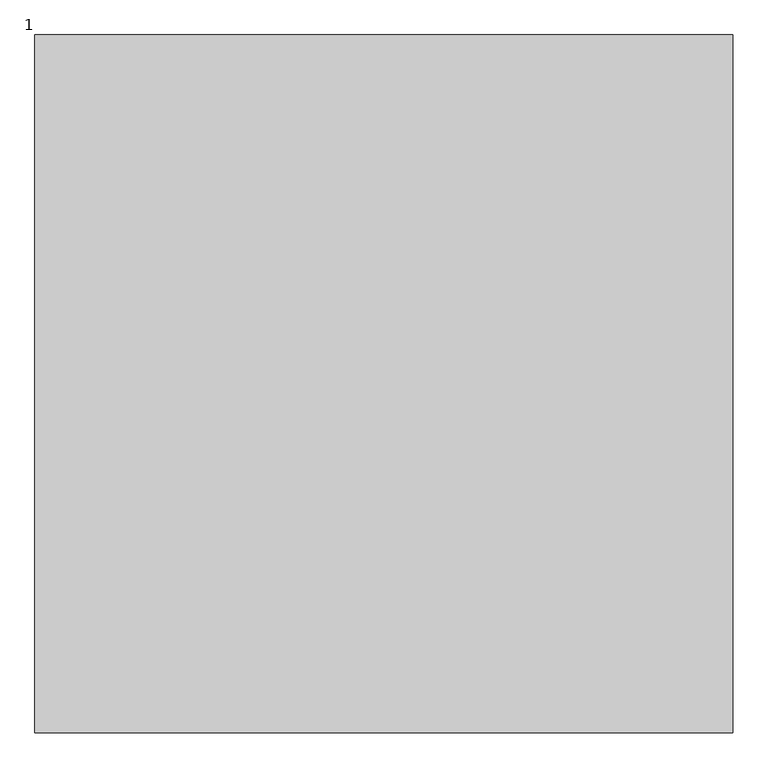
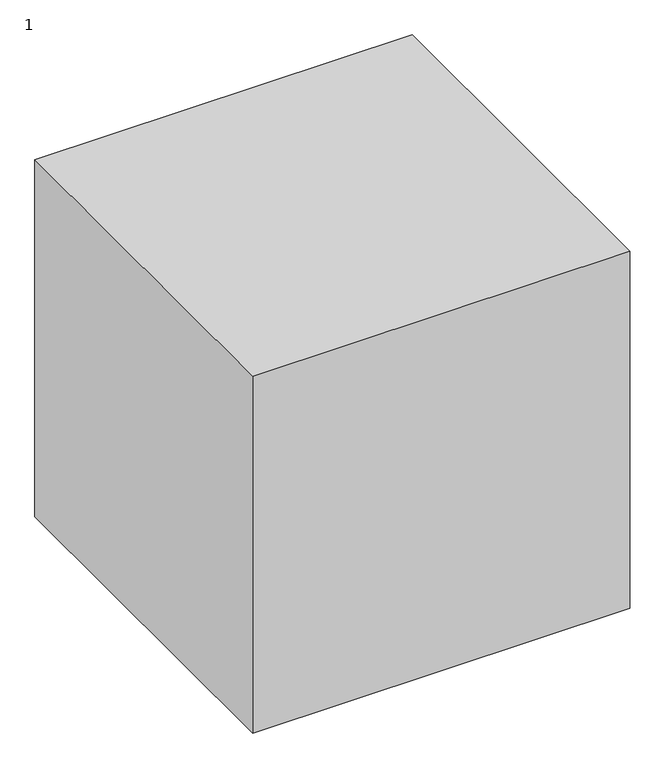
"""IFC4 building model written with IfcOpenShell, lengths in millimetres: proxy geometry, 1222211 : 1."""

import ifcopenshell
import ifcopenshell.guid

model = None  # the IFC model being written
_history = None  # IfcOwnerHistory: only IFC2X3 demands one
_inside = {}  # id of a spatial element -> (the spatial element, [elements in it])
_under = {}  # id of a project, library or spatial element -> (it, [spatial elements below it])
_declared = {}  # id of a project -> (the project, [libraries it declares])
_typed = {}  # id of a type object -> (the type object, [elements of that type])
_made_of = {}  # id of a material, layer set ... -> (it, [elements and type objects made of it])


def new_model(schema):
    """Start an empty IFC model of exactly this schema.

    Asked for "IFC4X3", IfcOpenShell would pick the latest addendum, in which some entities
    have other attributes; the version numbers below select the first issue.
    IFC2X3 requires an IfcOwnerHistory on every rooted entity: one is made here for all.
    """
    global model, _history
    if schema == "IFC4X3":
        model = ifcopenshell.file(schema_version=(4, 3, 0, 0))
    else:
        model = ifcopenshell.file(schema=schema)
    _inside.clear()
    _under.clear()
    _declared.clear()
    _typed.clear()
    _made_of.clear()
    _history = None
    if model.schema == "IFC2X3":
        org = make("IfcOrganization", Name="unknown")
        user = make(
            "IfcPersonAndOrganization",
            ThePerson=make("IfcPerson", FamilyName="unknown"),
            TheOrganization=org,
        )
        app = make(
            "IfcApplication",
            ApplicationDeveloper=org,
            Version="unknown",
            ApplicationFullName="unknown",
            ApplicationIdentifier="unknown",
        )
        _history = make(
            "IfcOwnerHistory",
            OwningUser=user,
            OwningApplication=app,
            ChangeAction="ADDED",
            CreationDate=0,
        )
    return model


def make(cls, **values):
    """One entity of the class cls with the attributes given. An attribute that is None is left unset."""
    return model.create_entity(
        cls, **{name: value for name, value in values.items() if value is not None}
    )


def rooted(cls, **values):
    """An entity with a GlobalId (a new one), such as an element, a storey or a relation."""
    return make(cls, GlobalId=ifcopenshell.guid.new(), OwnerHistory=_history, **values)


def si_unit(unit_type, name, prefix=None):
    """IfcSIUnit, for example si_unit("LENGTHUNIT", "METRE", prefix="MILLI")."""
    return make("IfcSIUnit", UnitType=unit_type, Prefix=prefix, Name=name)


def assignment(units):
    """IfcUnitAssignment: the units of a project."""
    return None if units is None else make("IfcUnitAssignment", Units=units)


def point(xyz):
    """IfcCartesianPoint."""
    return None if xyz is None else make("IfcCartesianPoint", Coordinates=xyz)


def direction(xyz):
    """IfcDirection."""
    return None if xyz is None else make("IfcDirection", DirectionRatios=xyz)


def frame(location, z_axis=None, x_axis=None):
    """IfcAxis2Placement3D, a coordinate frame: its origin and axes. An axis left out is left unset."""
    return make(
        "IfcAxis2Placement3D",
        Location=point(location),
        Axis=direction(z_axis),
        RefDirection=direction(x_axis),
    )


def origin():
    """The frame at (0, 0, 0) with its axes left unset."""
    return frame((0.0, 0.0, 0.0))


def origin_with_axes():
    """The frame at (0, 0, 0) with the z axis (0, 0, 1) and the x axis (1, 0, 0) written out."""
    return frame((0.0, 0.0, 0.0), z_axis=(0.0, 0.0, 1.0), x_axis=(1.0, 0.0, 0.0))


def place(relative_to, where):
    """IfcLocalPlacement: puts the frame where relative to a parent placement (None: the world)."""
    return make(
        "IfcLocalPlacement", PlacementRelTo=relative_to, RelativePlacement=where
    )


def context(
    kind, dimensions, precision=None, world=None, true_north=None, identifier=None
):
    """IfcGeometricRepresentationContext, for example the 3D "Model" context."""
    return make(
        "IfcGeometricRepresentationContext",
        ContextIdentifier=identifier,
        ContextType=kind,
        CoordinateSpaceDimension=dimensions,
        Precision=precision,
        WorldCoordinateSystem=world,
        TrueNorth=true_north,
    )


def project(units=None, contexts=None):
    """IfcProject with its units and contexts."""
    return rooted(
        "IfcProject",
        Name="project",
        RepresentationContexts=contexts,
        UnitsInContext=assignment(units),
    )


def spatial(cls, under=None, at=None, **own):
    """A site, building, storey or space (cls), placed at a placement, below another one or the project."""
    s = rooted(cls, ObjectPlacement=at, **own)
    if under is not None:
        _under.setdefault(under.id(), (under, []))[1].append(s)
    return s


def polyline(points):
    """IfcPolyline through the points."""
    return make("IfcPolyline", Points=[point(p) for p in points])


def outline(outer, holes=None, kind="AREA"):
    """IfcArbitraryClosedProfileDef: a profile drawn as a closed curve; with holes, ...WithVoids."""
    if holes is None:
        return make("IfcArbitraryClosedProfileDef", ProfileType=kind, OuterCurve=outer)
    return make(
        "IfcArbitraryProfileDefWithVoids",
        ProfileType=kind,
        OuterCurve=outer,
        InnerCurves=holes,
    )


def extrude(swept, where, along, depth):
    """IfcExtrudedAreaSolid: the profile swept, set in the frame where, extruded along a direction by depth."""
    return make(
        "IfcExtrudedAreaSolid",
        SweptArea=swept,
        Position=where,
        ExtrudedDirection=direction(along),
        Depth=depth,
    )


def shape(context_of_items, identifier, shape_type, items):
    """IfcShapeRepresentation: the items that make up one representation, for example the "Body"."""
    return make(
        "IfcShapeRepresentation",
        ContextOfItems=context_of_items,
        RepresentationIdentifier=identifier,
        RepresentationType=shape_type,
        Items=items,
    )


def source(mapping_origin, context_of_items, identifier, shape_type, items):
    """IfcRepresentationMap: a shape defined once, which mapped items show again and again."""
    return make(
        "IfcRepresentationMap",
        MappingOrigin=mapping_origin,
        MappedRepresentation=shape(context_of_items, identifier, shape_type, items),
    )


def transform(
    local_origin,
    x_axis=None,
    y_axis=None,
    z_axis=None,
    scale=None,
    scale2=None,
    scale3=None,
    uniform=True,
):
    """IfcCartesianTransformationOperator3D, or its non-uniform kind. x_axis, y_axis, z_axis: its Axis1, 2, 3."""
    if uniform:
        return make(
            "IfcCartesianTransformationOperator3D",
            Axis1=direction(x_axis),
            Axis2=direction(y_axis),
            LocalOrigin=point(local_origin),
            Scale=scale,
            Axis3=direction(z_axis),
        )
    return make(
        "IfcCartesianTransformationOperator3DnonUniform",
        Axis1=direction(x_axis),
        Axis2=direction(y_axis),
        LocalOrigin=point(local_origin),
        Scale=scale,
        Axis3=direction(z_axis),
        Scale2=scale2,
        Scale3=scale3,
    )


def mapped(mapping_source, mapping_target):
    """IfcMappedItem: shows the shape of a source again, moved by a transform."""
    return make(
        "IfcMappedItem", MappingSource=mapping_source, MappingTarget=mapping_target
    )


def made_of(thing, what):
    """Note that an element or type object is made of a material, layer set ...; save() writes the relation."""
    if what is not None:
        _made_of.setdefault(what.id(), (what, []))[1].append(thing)
    return thing


def element(
    cls,
    number,
    at=None,
    inside=None,
    cuts=None,
    type_object=None,
    material=None,
    context=None,
    identifier="Body",
    shape_type=None,
    held_by="IfcProductDefinitionShape",
    body=None,
    shapes=None,
    **own,
):
    """One element of the class cls, such as IfcWall. Its Tag is "e" and its number.

    at: its placement. inside: the storey or other place that contains it. cuts: it is an
    opening in that element (IfcRelVoidsElement). A single representation is given by context,
    identifier, shape_type and body (its items); several are given by shapes. held_by: the class
    of the entity that holds the representations. save() writes the other relations.
    """
    e = rooted(cls, Tag="e%d" % number, ObjectPlacement=at, **own)
    if body is not None:
        shapes = [shape(context, identifier, shape_type, body)]
    if shapes is not None:
        e.Representation = make(held_by, Representations=shapes)
    if inside is not None:
        _inside.setdefault(inside.id(), (inside, []))[1].append(e)
    if cuts is not None:
        rooted(
            "IfcRelVoidsElement", RelatingBuildingElement=cuts, RelatedOpeningElement=e
        )
    if type_object is not None:
        _typed.setdefault(type_object.id(), (type_object, []))[1].append(e)
    return made_of(e, material)


def aggregate(whole, parts):
    """IfcRelAggregates: a whole, such as a stair, and the parts it consists of."""
    return rooted("IfcRelAggregates", RelatingObject=whole, RelatedObjects=parts)


def save(model, path):
    """Write the relations noted so far, then the file.

    IfcRelAggregates (storeys below a building ...), IfcRelContainedInSpatialStructure (elements
    in a storey), IfcRelDefinesByType, IfcRelAssociatesMaterial and IfcRelDeclares: one each for
    every whole, place, type object, material and project.
    """
    for whole, parts in _under.values():
        aggregate(whole, parts)
    for where, things in _inside.values():
        rooted(
            "IfcRelContainedInSpatialStructure",
            RelatedElements=things,
            RelatingStructure=where,
        )
    for kind, things in _typed.values():
        rooted("IfcRelDefinesByType", RelatedObjects=things, RelatingType=kind)
    for what, things in _made_of.values():
        rooted("IfcRelAssociatesMaterial", RelatedObjects=things, RelatingMaterial=what)
    for by, libraries in _declared.values():
        rooted("IfcRelDeclares", RelatingContext=by, RelatedDefinitions=libraries)
    model.write(path)


def proxy_1_b9940bfe(model_context):
    return source(origin(), model_context, "Body", "SweptSolid", [
        extrude(outline(polyline([(-14307.9756708, -664.7705528), (-14307.9756708, -1664.7705528), (-15307.9756708, -1664.7705528), (-15307.9756708, -664.7705528), (-14307.9756708, -664.7705528)])), origin_with_axes(), (0.0, 0.0, 1.0), 1000.0),
    ])


if __name__ == "__main__":
    model = new_model("IFC4")
    model_context = context("Model", 3, world=origin())
    ifc_project = project(units=[si_unit("LENGTHUNIT", "METRE", prefix="MILLI")], contexts=[model_context])
    site = spatial("IfcSite", under=ifc_project)
    building = spatial("IfcBuilding", under=site)
    placement = place(None, origin())
    proxy_1_shape = proxy_1_b9940bfe(model_context)
    element("IfcBuildingElementProxy", 1, Name="1222211 : 1", ObjectType="1222211 : 1", at=placement, inside=building, context=model_context, shape_type="MappedRepresentation", body=[
        mapped(proxy_1_shape, transform((0.0, 0.0, 0.0), x_axis=(1.0, 0.0, 0.0), y_axis=(0.0, 1.0, 0.0), z_axis=(0.0, 0.0, 1.0))),
    ])
    save(model, "model.ifc")
